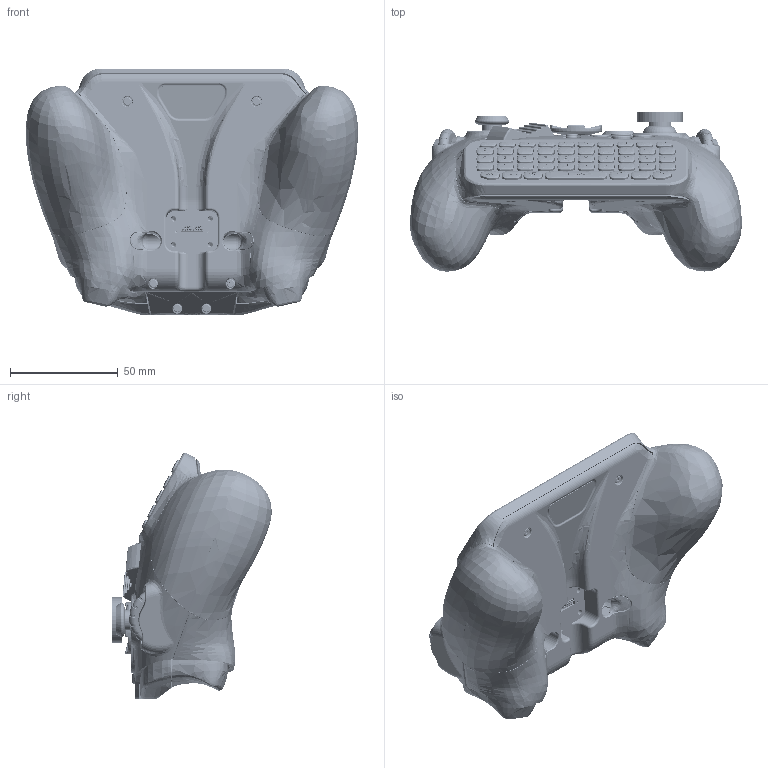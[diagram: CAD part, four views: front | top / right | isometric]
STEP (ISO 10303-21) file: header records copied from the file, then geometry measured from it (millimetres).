
FILE_DESCRIPTION (( 'STEP AP203' ), '1' );
FILE_NAME ('002-9480-2 - HANDCONTROLLER.STEP', '2025-12-09T00:43:40', ( '' ), ( '' ), 'SwSTEP 2.0', 'SolidWorks 2025', '' );
FILE_SCHEMA (( 'CONFIG_CONTROL_DESIGN' ));
Length unit declared in the file: millimetre
Products named in the file (2): 002-9480-2 - HANDCONTROLLER; 012-0002-ICD-V219
Assembly tree (1 placements, depth 2):
  002-9480-2 - HANDCONTROLLER
    012-0002-ICD-V219
Bounding box: 154.2 x 73.97 x 114.57 mm (x, y, z)
Volume: 186915.8 mm3; surface area: 173188.3 mm2
Topology: 85 solids, 86 shells, 13156 faces, 35166 edges, 22265 vertices
Faces by surface type: plane 4679, bspline 4117, cylinder 2867, cone 982, torus 371, sphere 140
Entity records: 1011396 total; most frequent: CARTESIAN_POINT 719666, ORIENTED_EDGE 68822, DIRECTION 47810, EDGE_CURVE 34411, VERTEX_POINT 22245, AXIS2_PLACEMENT_3D 16652, LINE 14506, VECTOR 14506
